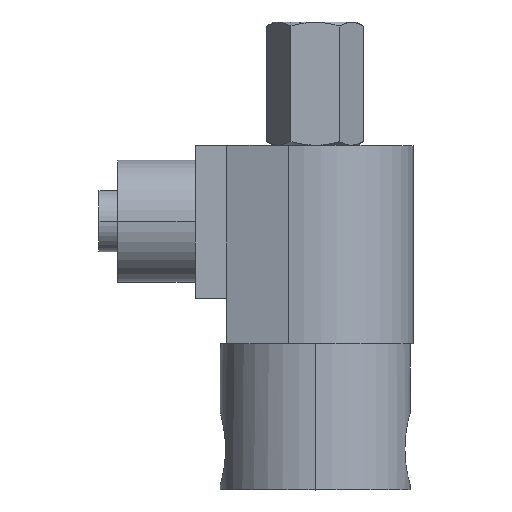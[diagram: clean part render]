
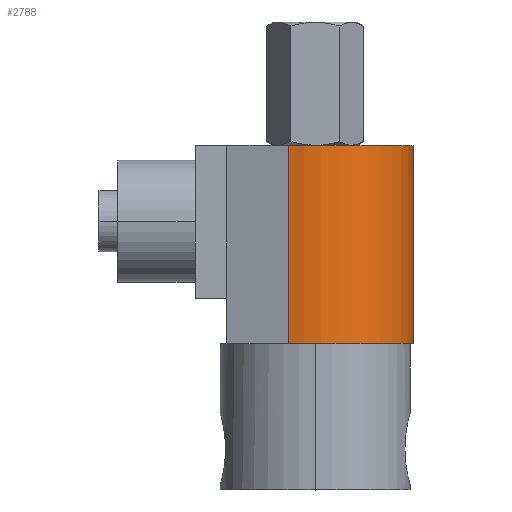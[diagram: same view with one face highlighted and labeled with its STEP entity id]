
A CAD part, top view. The second image highlights one B-rep face of the part: STEP entity #2788.
In plain terms, the highlighted cylindrical face has radius 20.32 mm (diameter 40.64 mm), a partial arc.
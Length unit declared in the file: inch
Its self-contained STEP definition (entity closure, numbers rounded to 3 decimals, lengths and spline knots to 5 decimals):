
#1186 = FACE_OUTER_BOUND ( 'NONE', #3426, .T. ) ;
#2115 = ORIENTED_EDGE ( 'NONE', *, *, #12664, .T. ) ;
#2144 = CARTESIAN_POINT ( 'NONE',  ( 0., 1.195, 0. ) ) ;
#2441 = EDGE_CURVE ( 'NONE', #2588, #4621, #2921, .T. ) ;
#2588 = VERTEX_POINT ( 'NONE', #13719 ) ;
#2788 = ADVANCED_FACE ( 'Defeatured_0_19', ( #1186 ), #12440, .T. ) ;
#2921 = LINE ( 'NONE', #11352, #10197 ) ;
#3426 = EDGE_LOOP ( 'NONE', ( #9919, #9484, #2115, #12425 ) ) ;
#4302 = DIRECTION ( 'NONE',  ( -1., 0., 0. ) ) ;
#4621 = VERTEX_POINT ( 'NONE', #10060 ) ;
#4879 = CARTESIAN_POINT ( 'NONE',  ( 0., 2.815, 0. ) ) ;
#5261 = VERTEX_POINT ( 'NONE', #9752 ) ;
#5337 = DIRECTION ( 'NONE',  ( 0., -1., 0. ) ) ;
#5756 = DIRECTION ( 'NONE',  ( 0., 1., 0. ) ) ;
#6002 = DIRECTION ( 'NONE',  ( 0., -1., 0. ) ) ;
#6126 = CIRCLE ( 'NONE', #7151, 0.8 ) ;
#6197 = DIRECTION ( 'NONE',  ( 0., -1., 0. ) ) ;
#6590 = EDGE_CURVE ( 'NONE', #5261, #4621, #6126, .T. ) ;
#6764 = DIRECTION ( 'NONE',  ( 0., 1., 0. ) ) ;
#7151 = AXIS2_PLACEMENT_3D ( 'NONE', #2144, #5756, #4302 ) ;
#7454 = DIRECTION ( 'NONE',  ( 1., 0., 0. ) ) ;
#7514 = VERTEX_POINT ( 'NONE', #10884 ) ;
#8203 = CIRCLE ( 'NONE', #14372, 0.8 ) ;
#9484 = ORIENTED_EDGE ( 'NONE', *, *, #9840, .F. ) ;
#9752 = CARTESIAN_POINT ( 'NONE',  ( -0.22081, 1.195, 0.76892 ) ) ;
#9840 = EDGE_CURVE ( 'NONE', #7514, #2588, #8203, .T. ) ;
#9919 = ORIENTED_EDGE ( 'NONE', *, *, #2441, .F. ) ;
#10004 = VECTOR ( 'NONE', #6197, 39.37008 ) ;
#10060 = CARTESIAN_POINT ( 'NONE',  ( 0.8, 1.195, 0. ) ) ;
#10197 = VECTOR ( 'NONE', #5337, 39.37008 ) ;
#10224 = CARTESIAN_POINT ( 'NONE',  ( 0., 2.815, 0. ) ) ;
#10884 = CARTESIAN_POINT ( 'NONE',  ( -0.22081, 2.815, 0.76892 ) ) ;
#11352 = CARTESIAN_POINT ( 'NONE',  ( 0.8, 2.815, 0. ) ) ;
#11753 = DIRECTION ( 'NONE',  ( -1., 0., 0. ) ) ;
#12425 = ORIENTED_EDGE ( 'NONE', *, *, #6590, .T. ) ;
#12440 = CYLINDRICAL_SURFACE ( 'NONE', #14588, 0.8 ) ;
#12664 = EDGE_CURVE ( 'NONE', #7514, #5261, #13381, .T. ) ;
#13381 = LINE ( 'NONE', #13466, #10004 ) ;
#13466 = CARTESIAN_POINT ( 'NONE',  ( -0.22081, 2.815, 0.76892 ) ) ;
#13719 = CARTESIAN_POINT ( 'NONE',  ( 0.8, 2.815, 0. ) ) ;
#14372 = AXIS2_PLACEMENT_3D ( 'NONE', #10224, #6764, #11753 ) ;
#14588 = AXIS2_PLACEMENT_3D ( 'NONE', #4879, #6002, #7454 ) ;
